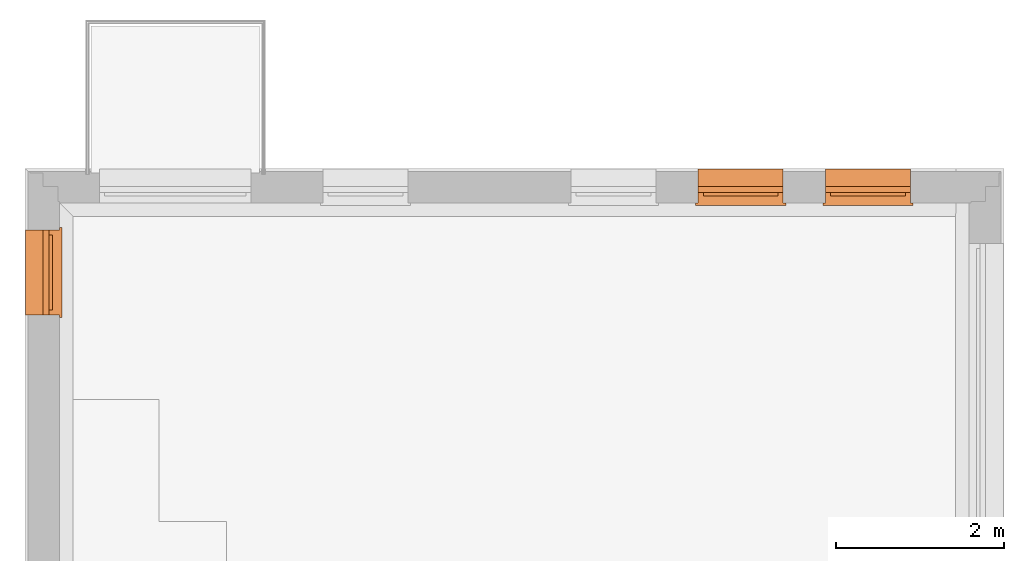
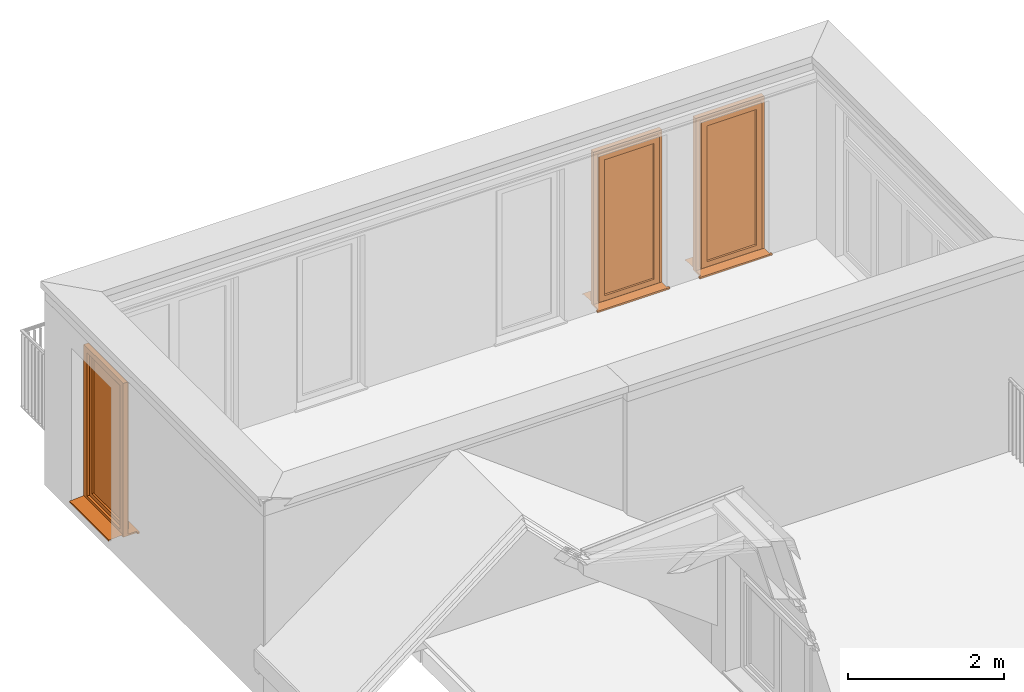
# One storey, part 12 of 15: 3 proxies.
"""IFC4 building model written with IfcOpenShell, lengths in metres."""

from ifc_helpers import new_model, entity, si_unit, converted_unit, derived_unit, direction, frame, origin_with_axes, place, context, subcontext, project, spatial, triangles, source, transform, mapped, type_object, element, save


model = new_model("IFC4")

# Units and contexts
model_context = context("Model", 3, precision=1e-05, world=origin_with_axes(), true_north=direction((-0.526213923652, 0.850352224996)))
body_context = subcontext(model_context, "Body", "Model", "MODEL_VIEW")
ifc_project = project(units=[si_unit("LENGTHUNIT", "METRE"), si_unit("AREAUNIT", "SQUARE_METRE"), si_unit("VOLUMEUNIT", "CUBIC_METRE"), converted_unit("PLANEANGLEUNIT", "DEGREE", entity("IfcPlaneAngleMeasure", 0.0174532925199), si_unit("PLANEANGLEUNIT", "RADIAN"), dimensions=[0, 0, 0, 0, 0, 0, 0]), si_unit("SOLIDANGLEUNIT", "STERADIAN"), converted_unit("TIMEUNIT", "Year", entity("IfcTimeMeasure", 31556926.0), si_unit("TIMEUNIT", "SECOND"), dimensions=[0, 0, 1, 0, 0, 0, 0]), si_unit("MASSUNIT", "GRAM", prefix="KILO"), si_unit("THERMODYNAMICTEMPERATUREUNIT", "DEGREE_CELSIUS"), si_unit("LUMINOUSINTENSITYUNIT", "LUMEN"), si_unit("ENERGYUNIT", "JOULE", prefix="MEGA"), derived_unit("THERMALCONDUCTANCEUNIT", [(si_unit("POWERUNIT", "WATT"), 1), (si_unit("LENGTHUNIT", "METRE"), -1), (si_unit("THERMODYNAMICTEMPERATUREUNIT", "KELVIN"), -1)]), derived_unit("SPECIFICHEATCAPACITYUNIT", [(si_unit("ENERGYUNIT", "JOULE"), 1), (si_unit("MASSUNIT", "GRAM", prefix="KILO"), -1), (si_unit("THERMODYNAMICTEMPERATUREUNIT", "KELVIN"), -1)]), derived_unit("MASSDENSITYUNIT", [(si_unit("MASSUNIT", "GRAM", prefix="KILO"), 1), (si_unit("VOLUMEUNIT", "CUBIC_METRE"), -1)])], contexts=[model_context])

# Site, building, storey
site_placement = place(None, origin_with_axes())
site = spatial("IfcSite", under=ifc_project, at=site_placement, Name="Gelände", CompositionType="ELEMENT")
building_placement = place(site_placement, origin_with_axes())
building = spatial("IfcBuilding", under=site, at=building_placement, Name="Haus vom Nikolaus", CompositionType="ELEMENT")
storey_placement = place(building_placement, frame((0.0, 0.0, 3.75), z_axis=(0.0, 0.0, 1.0), x_axis=(1.0, 0.0, 0.0)))
storey = spatial("IfcBuildingStorey", under=building, at=storey_placement, Name="1. OG", CompositionType="ELEMENT", Elevation=3.75)

# Proxies
building_element_proxy_type = type_object("IfcBuildingElementProxyType", Name="1-Flügelfenster 22", PredefinedType="NOTDEFINED")
shared_shape_1 = source(origin_with_axes(), body_context, "Body", "Tessellation", [
    triangles([(-0.505, -0.071, 0.04), (0.505, -0.071, 0.05), (-0.505, -0.071, 0.05), (0.505, -0.071, 0.04), (-0.505, -0.28, 0.0283333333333), (0.505, -0.28, 0.0283333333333), (-0.505, -0.28, 0.00833333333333), (0.505, -0.28, 0.00833333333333), (-0.505, -0.27, 0.0183333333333), (0.505, -0.27, 0.0183333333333)], [[1, 2, 3], [1, 4, 2], [5, 4, 1], [5, 6, 4], [7, 6, 5], [7, 8, 6], [9, 8, 7], [9, 10, 8]], closed=False),
    triangles([(-0.505, 0.125, 0.0), (-0.505, 0.0, 0.025), (-0.505, 0.125, 0.025), (-0.505, 0.0, 0.0), (0.505, 0.0, 0.0), (0.505, 0.0, 0.025), (-0.535, 0.155, 0.025), (0.505, 0.125, 0.025), (0.535, 0.155, 0.025), (0.535, 0.125, 0.025), (-0.535, 0.125, 0.025), (-0.535, 0.125, 0.0), (-0.535, 0.155, 0.0), (0.505, 0.125, 0.0), (0.535, 0.155, 0.0), (0.535, 0.125, 0.0)], [[1, 2, 3], [2, 1, 4], [2, 5, 6], [2, 4, 5], [7, 8, 9], [8, 2, 6], [9, 8, 10], [11, 3, 7], [3, 2, 8], [7, 3, 8], [11, 1, 3], [11, 12, 1], [12, 13, 1], [14, 1, 15], [15, 1, 13], [14, 5, 4], [14, 15, 16], [1, 14, 4], [6, 14, 8], [6, 5, 14], [8, 16, 10], [8, 14, 16], [10, 15, 9], [10, 16, 15], [9, 13, 7], [9, 15, 13], [13, 11, 7], [11, 13, 12]], closed=True),
    triangles([(0.425, 0.0, 0.08), (0.505, -0.07, 0.0), (0.425, -0.07, 0.08), (0.505, 0.0, 0.0), (0.505, -0.07, 2.4), (0.425, -0.07, 2.32), (0.425, 0.0, 2.32), (0.505, 0.0, 2.4)], [[1, 2, 3], [1, 4, 2], [3, 5, 6], [5, 3, 2], [7, 3, 6], [7, 1, 3], [8, 4, 7], [7, 4, 1], [4, 5, 2], [4, 8, 5], [8, 6, 5], [8, 7, 6]], closed=True),
    triangles([(-0.505, 0.0, 2.4), (-0.505, -0.07, 0.0), (-0.505, -0.07, 2.4), (-0.505, 0.0, 0.0), (-0.425, -0.07, 2.32), (-0.425, -0.07, 0.08), (-0.425, 0.0, 2.32), (-0.425, 0.0, 0.08)], [[1, 2, 3], [1, 4, 2], [3, 2, 5], [5, 2, 6], [7, 3, 5], [7, 1, 3], [7, 4, 1], [7, 8, 4], [4, 6, 2], [4, 8, 6], [8, 5, 6], [8, 7, 5]], closed=True),
    triangles([(-0.505, 0.0, 0.0), (0.505, -0.07, 0.0), (-0.505, -0.07, 0.0), (0.505, 0.0, 0.0), (0.0, -0.07, 0.08), (0.425, -0.07, 0.08), (-0.425, -0.07, 0.08), (-0.425, 0.0, 0.08), (0.0, 0.0, 0.08), (0.425, 0.0, 0.08)], [[1, 2, 3], [1, 4, 2], [3, 2, 5], [5, 2, 6], [3, 5, 7], [8, 3, 7], [8, 1, 3], [9, 1, 8], [10, 4, 9], [1, 9, 4], [4, 6, 2], [4, 10, 6], [10, 5, 6], [10, 9, 5], [9, 7, 5], [9, 8, 7]], closed=True),
    triangles([(0.425, 0.0, 2.32), (0.505, -0.07, 2.4), (0.425, -0.07, 2.32), (0.505, 0.0, 2.4), (0.0, -0.07, 2.32), (-0.505, -0.07, 2.4), (-0.425, -0.07, 2.32), (0.0, 0.0, 2.32), (-0.505, 0.0, 2.4), (-0.425, 0.0, 2.32)], [[1, 2, 3], [1, 4, 2], [5, 6, 7], [3, 2, 5], [6, 5, 2], [8, 3, 5], [8, 1, 3], [9, 4, 8], [8, 4, 1], [9, 8, 10], [4, 6, 2], [4, 9, 6], [9, 7, 6], [9, 10, 7], [10, 5, 7], [10, 8, 5]], closed=True),
    triangles([(0.445, 0.04, 0.06), (0.365, 0.0, 0.14), (0.365, 0.04, 0.14), (0.445, 0.0, 0.06), (0.365, 0.0, 2.26), (0.445, 0.0, 2.34), (0.365, 0.04, 2.26), (0.445, 0.04, 2.34)], [[1, 2, 3], [2, 1, 4], [5, 4, 6], [5, 2, 4], [7, 2, 5], [7, 3, 2], [8, 1, 7], [7, 1, 3], [1, 6, 4], [1, 8, 6], [8, 5, 6], [8, 7, 5]], closed=True),
    triangles([(-0.365, 0.04, 0.14), (-0.445, 0.0, 0.06), (-0.445, 0.04, 0.06), (-0.365, 0.0, 0.14), (-0.445, 0.0, 2.34), (-0.445, 0.04, 2.34), (-0.365, 0.04, 2.26), (-0.365, 0.0, 2.26)], [[1, 2, 3], [1, 4, 2], [3, 5, 6], [3, 2, 5], [7, 3, 6], [7, 1, 3], [7, 4, 1], [7, 8, 4], [5, 2, 8], [8, 2, 4], [6, 8, 7], [6, 5, 8]], closed=True),
    triangles([(-0.445, 0.04, 0.06), (0.445, 0.0, 0.06), (-0.445, 0.0, 0.06), (0.445, 0.04, 0.06), (-0.365, 0.0, 0.14), (0.365, 0.0, 0.14), (-0.365, 0.04, 0.14), (0.365, 0.04, 0.14)], [[1, 2, 3], [1, 4, 2], [3, 2, 5], [5, 2, 6], [7, 3, 5], [7, 1, 3], [7, 4, 1], [7, 8, 4], [4, 6, 2], [4, 8, 6], [8, 5, 6], [8, 7, 5]], closed=True),
    triangles([(-0.445, 0.04, 2.34), (0.445, 0.0, 2.34), (0.445, 0.04, 2.34), (-0.445, 0.0, 2.34), (0.365, 0.0, 2.26), (0.365, 0.04, 2.26), (-0.365, 0.04, 2.26), (-0.365, 0.0, 2.26)], [[1, 2, 3], [1, 4, 2], [3, 5, 6], [3, 2, 5], [6, 1, 3], [1, 6, 7], [7, 4, 1], [7, 8, 4], [8, 2, 4], [8, 5, 2], [6, 8, 7], [6, 5, 8]], closed=True),
    triangles([(0.365, 0.0, 0.14), (0.425, -0.03, 0.08), (0.365, -0.03, 0.14), (0.425, 0.0, 0.08), (0.365, -0.03, 2.26), (0.425, -0.03, 2.32), (0.365, 0.0, 2.26), (0.425, 0.0, 2.32)], [[1, 2, 3], [1, 4, 2], [5, 2, 6], [5, 3, 2], [7, 3, 5], [7, 1, 3], [1, 8, 4], [8, 1, 7], [4, 6, 2], [4, 8, 6], [8, 5, 6], [8, 7, 5]], closed=True),
    triangles([(-0.365, 0.0, 0.14), (-0.425, -0.03, 0.08), (-0.425, 0.0, 0.08), (-0.365, -0.03, 0.14), (-0.425, -0.03, 2.32), (-0.425, 0.0, 2.32), (-0.365, 0.0, 2.26), (-0.365, -0.03, 2.26)], [[1, 2, 3], [1, 4, 2], [3, 5, 6], [3, 2, 5], [7, 3, 6], [7, 1, 3], [7, 4, 1], [7, 8, 4], [4, 5, 2], [5, 4, 8], [6, 8, 7], [6, 5, 8]], closed=True),
    triangles([(-0.425, 0.0, 0.08), (0.425, -0.03, 0.08), (-0.425, -0.03, 0.08), (0.425, 0.0, 0.08), (-0.365, -0.03, 0.14), (0.365, -0.03, 0.14), (-0.365, 0.0, 0.14), (0.365, 0.0, 0.14)], [[1, 2, 3], [1, 4, 2], [3, 2, 5], [5, 2, 6], [7, 3, 5], [7, 1, 3], [7, 4, 1], [7, 8, 4], [4, 6, 2], [4, 8, 6], [8, 5, 6], [8, 7, 5]], closed=True),
    triangles([(-0.425, 0.0, 2.32), (0.425, -0.03, 2.32), (0.425, 0.0, 2.32), (-0.425, -0.03, 2.32), (0.365, -0.03, 2.26), (0.365, 0.0, 2.26), (-0.365, 0.0, 2.26), (-0.365, -0.03, 2.26)], [[1, 2, 3], [1, 4, 2], [3, 5, 6], [3, 2, 5], [1, 3, 7], [7, 3, 6], [7, 4, 1], [7, 8, 4], [8, 2, 4], [8, 5, 2], [6, 8, 7], [6, 5, 8]], closed=True),
    triangles([(-0.365, 0.01, 0.14), (0.365, 0.0, 0.14), (-0.365, 0.0, 0.14), (0.365, 0.01, 0.14), (-0.365, 0.0, 2.26), (0.365, 0.0, 2.26), (-0.365, 0.01, 2.26), (0.365, 0.01, 2.26)], [[1, 2, 3], [1, 4, 2], [5, 2, 6], [5, 3, 2], [7, 3, 5], [7, 1, 3], [7, 4, 1], [7, 8, 4], [4, 6, 2], [4, 8, 6], [8, 5, 6], [8, 7, 5]], closed=True),
])
proxy_1_placement = place(storey_placement, frame((0.259997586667, 12.2998327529, 0.15), z_axis=(0.0, 0.0, 1.0), x_axis=(0.0, -1.0, 0.0)))
element("IfcBuildingElementProxy", 1, at=proxy_1_placement, inside=storey, type_object=building_element_proxy_type, Name="Fenster-005", PredefinedType="NOTDEFINED", context=body_context, shape_type="MappedRepresentation", body=[
    mapped(shared_shape_1, transform((0.505, -0.125, 0.0))),
])
shared_shape_2 = source(origin_with_axes(), body_context, "Body", "Tessellation", [
    triangles([(0.505, -0.071, 0.04), (-0.505, -0.071, 0.05), (-0.505, -0.071, 0.04), (0.505, -0.071, 0.05), (0.505, -0.28, 0.0283333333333), (-0.505, -0.28, 0.0283333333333), (0.505, -0.28, 0.00833333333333), (-0.505, -0.28, 0.00833333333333), (0.505, -0.27, 0.0183333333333), (-0.505, -0.27, 0.0183333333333)], [[1, 2, 3], [1, 4, 2], [5, 3, 6], [5, 1, 3], [7, 6, 8], [7, 5, 6], [9, 8, 10], [9, 7, 8]], closed=False),
    triangles([(0.505, 0.125, 0.025), (0.505, 0.0, 0.0), (0.505, 0.125, 0.0), (0.505, 0.0, 0.025), (0.535, 0.155, 0.0), (-0.505, 0.125, 0.0), (-0.535, 0.155, 0.0), (-0.505, 0.0, 0.0), (-0.535, 0.125, 0.0), (0.535, 0.125, 0.0), (0.535, 0.125, 0.025), (0.535, 0.155, 0.025), (-0.505, 0.125, 0.025), (-0.535, 0.155, 0.025), (-0.505, 0.0, 0.025), (-0.535, 0.125, 0.025)], [[1, 2, 3], [1, 4, 2], [5, 6, 7], [6, 2, 8], [7, 6, 9], [10, 3, 5], [3, 2, 6], [5, 3, 6], [11, 3, 10], [11, 1, 3], [11, 12, 1], [13, 1, 14], [14, 1, 12], [13, 15, 4], [13, 14, 16], [1, 13, 4], [4, 8, 2], [4, 15, 8], [15, 6, 8], [15, 13, 6], [13, 9, 6], [13, 16, 9], [16, 7, 9], [16, 14, 7], [14, 5, 7], [14, 12, 5], [11, 5, 12], [5, 11, 10]], closed=True),
    triangles([(-0.425, 0.0, 0.08), (-0.505, -0.07, 0.0), (-0.505, 0.0, 0.0), (-0.425, -0.07, 0.08), (-0.505, -0.07, 2.4), (-0.505, 0.0, 2.4), (-0.425, 0.0, 2.32), (-0.425, -0.07, 2.32)], [[1, 2, 3], [1, 4, 2], [3, 5, 6], [3, 2, 5], [1, 6, 7], [6, 1, 3], [7, 4, 1], [7, 8, 4], [5, 2, 8], [8, 2, 4], [6, 8, 7], [6, 5, 8]], closed=True),
    triangles([(0.505, 0.0, 2.4), (0.505, -0.07, 0.0), (0.505, 0.0, 0.0), (0.505, -0.07, 2.4), (0.425, -0.07, 0.08), (0.425, 0.0, 0.08), (0.425, 0.0, 2.32), (0.425, -0.07, 2.32)], [[1, 2, 3], [1, 4, 2], [3, 5, 6], [3, 2, 5], [1, 3, 7], [7, 3, 6], [7, 4, 1], [7, 8, 4], [5, 4, 8], [4, 5, 2], [6, 8, 7], [6, 5, 8]], closed=True),
    triangles([(0.505, 0.0, 0.0), (-0.505, -0.07, 0.0), (-0.505, 0.0, 0.0), (0.505, -0.07, 0.0), (-0.425, -0.07, 0.08), (-0.425, 0.0, 0.08), (0.0, 0.0, 0.08), (0.425, 0.0, 0.08), (0.425, -0.07, 0.08), (0.0, -0.07, 0.08)], [[1, 2, 3], [1, 4, 2], [3, 5, 6], [3, 2, 5], [1, 3, 7], [7, 3, 6], [1, 7, 8], [8, 4, 1], [8, 9, 4], [10, 4, 9], [5, 2, 10], [4, 10, 2], [6, 10, 7], [6, 5, 10], [7, 9, 8], [7, 10, 9]], closed=True),
    triangles([(-0.425, 0.0, 2.32), (-0.505, -0.07, 2.4), (-0.505, 0.0, 2.4), (-0.425, -0.07, 2.32), (0.505, -0.07, 2.4), (0.505, 0.0, 2.4), (0.0, 0.0, 2.32), (0.425, 0.0, 2.32), (0.0, -0.07, 2.32), (0.425, -0.07, 2.32)], [[1, 2, 3], [1, 4, 2], [3, 5, 6], [3, 2, 5], [7, 6, 8], [1, 3, 7], [6, 7, 3], [7, 4, 1], [7, 9, 4], [5, 2, 9], [9, 2, 4], [5, 9, 10], [6, 10, 8], [6, 5, 10], [8, 9, 7], [8, 10, 9]], closed=True),
    triangles([(-0.365, 0.04, 0.14), (-0.445, 0.0, 0.06), (-0.445, 0.04, 0.06), (-0.365, 0.0, 0.14), (-0.445, 0.0, 2.34), (-0.445, 0.04, 2.34), (-0.365, 0.04, 2.26), (-0.365, 0.0, 2.26)], [[1, 2, 3], [1, 4, 2], [3, 5, 6], [3, 2, 5], [1, 6, 7], [6, 1, 3], [7, 4, 1], [7, 8, 4], [4, 5, 2], [5, 4, 8], [6, 8, 7], [6, 5, 8]], closed=True),
    triangles([(0.445, 0.04, 0.06), (0.365, 0.0, 0.14), (0.365, 0.04, 0.14), (0.445, 0.0, 0.06), (0.445, 0.0, 2.34), (0.365, 0.0, 2.26), (0.365, 0.04, 2.26), (0.445, 0.04, 2.34)], [[1, 2, 3], [2, 1, 4], [2, 5, 6], [5, 2, 4], [7, 2, 6], [7, 3, 2], [3, 8, 1], [8, 3, 7], [1, 5, 4], [1, 8, 5], [8, 6, 5], [8, 7, 6]], closed=True),
    triangles([(0.445, 0.04, 0.06), (-0.445, 0.0, 0.06), (-0.445, 0.04, 0.06), (0.445, 0.0, 0.06), (-0.365, 0.0, 0.14), (-0.365, 0.04, 0.14), (0.365, 0.04, 0.14), (0.365, 0.0, 0.14)], [[1, 2, 3], [1, 4, 2], [3, 5, 6], [3, 2, 5], [1, 3, 7], [7, 3, 6], [7, 4, 1], [7, 8, 4], [5, 4, 8], [4, 5, 2], [6, 8, 7], [6, 5, 8]], closed=True),
    triangles([(0.445, 0.04, 2.34), (-0.445, 0.0, 2.34), (0.445, 0.0, 2.34), (-0.445, 0.04, 2.34), (0.365, 0.0, 2.26), (-0.365, 0.0, 2.26), (0.365, 0.04, 2.26), (-0.365, 0.04, 2.26)], [[1, 2, 3], [1, 4, 2], [3, 2, 5], [5, 2, 6], [7, 3, 5], [7, 1, 3], [8, 1, 7], [1, 8, 4], [4, 6, 2], [4, 8, 6], [8, 5, 6], [8, 7, 5]], closed=True),
    triangles([(-0.365, 0.0, 0.14), (-0.425, -0.03, 0.08), (-0.425, 0.0, 0.08), (-0.365, -0.03, 0.14), (-0.425, -0.03, 2.32), (-0.425, 0.0, 2.32), (-0.365, 0.0, 2.26), (-0.365, -0.03, 2.26)], [[1, 2, 3], [1, 4, 2], [3, 5, 6], [3, 2, 5], [7, 3, 6], [7, 1, 3], [7, 4, 1], [7, 8, 4], [5, 2, 8], [8, 2, 4], [6, 8, 7], [6, 5, 8]], closed=True),
    triangles([(0.365, 0.0, 0.14), (0.425, -0.03, 0.08), (0.365, -0.03, 0.14), (0.425, 0.0, 0.08), (0.365, -0.03, 2.26), (0.425, -0.03, 2.32), (0.365, 0.0, 2.26), (0.425, 0.0, 2.32)], [[1, 2, 3], [1, 4, 2], [5, 2, 6], [5, 3, 2], [7, 3, 5], [7, 1, 3], [8, 4, 7], [7, 4, 1], [4, 6, 2], [4, 8, 6], [8, 5, 6], [8, 7, 5]], closed=True),
    triangles([(0.425, 0.0, 0.08), (-0.425, -0.03, 0.08), (-0.425, 0.0, 0.08), (0.425, -0.03, 0.08), (-0.365, 0.0, 0.14), (-0.365, -0.03, 0.14), (0.365, 0.0, 0.14), (0.365, -0.03, 0.14)], [[1, 2, 3], [1, 4, 2], [2, 5, 3], [5, 2, 6], [5, 1, 3], [1, 5, 7], [7, 4, 1], [7, 8, 4], [6, 4, 8], [4, 6, 2], [5, 8, 7], [5, 6, 8]], closed=True),
    triangles([(0.425, 0.0, 2.32), (-0.425, -0.03, 2.32), (0.425, -0.03, 2.32), (-0.425, 0.0, 2.32), (0.365, -0.03, 2.26), (-0.365, -0.03, 2.26), (0.365, 0.0, 2.26), (-0.365, 0.0, 2.26)], [[1, 2, 3], [1, 4, 2], [3, 2, 5], [5, 2, 6], [1, 5, 7], [5, 1, 3], [7, 4, 1], [7, 8, 4], [4, 6, 2], [4, 8, 6], [8, 5, 6], [8, 7, 5]], closed=True),
    triangles([(0.365, 0.01, 0.14), (-0.365, 0.0, 0.14), (-0.365, 0.01, 0.14), (0.365, 0.0, 0.14), (-0.365, 0.0, 2.26), (-0.365, 0.01, 2.26), (0.365, 0.01, 2.26), (0.365, 0.0, 2.26)], [[1, 2, 3], [1, 4, 2], [3, 5, 6], [3, 2, 5], [7, 3, 6], [7, 1, 3], [7, 4, 1], [7, 8, 4], [8, 2, 4], [8, 5, 2], [6, 8, 7], [6, 5, 8]], closed=True),
])
proxy_2_placement = place(storey_placement, frame((8.85538204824, 12.6198322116, 0.15), z_axis=(0.0, 0.0, 1.0), x_axis=(-1.0, 5.99993595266e-08, 0.0)))
element("IfcBuildingElementProxy", 2, at=proxy_2_placement, inside=storey, type_object=building_element_proxy_type, Name="Fenster-003", PredefinedType="NOTDEFINED", context=body_context, shape_type="MappedRepresentation", body=[
    mapped(shared_shape_2, transform((0.5050000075, -0.125000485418, 0.0))),
])
proxy_3_placement = place(storey_placement, frame((10.3653820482, 12.619832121, 0.15), z_axis=(0.0, 0.0, 1.0), x_axis=(-1.0, 5.99993595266e-08, 0.0)))
element("IfcBuildingElementProxy", 3, at=proxy_3_placement, inside=storey, type_object=building_element_proxy_type, Name="Fenster-004", PredefinedType="NOTDEFINED", context=body_context, shape_type="MappedRepresentation", body=[
    mapped(shared_shape_2, transform((0.5050000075, -0.125000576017, 0.0))),
])

save(model, "model.ifc")
